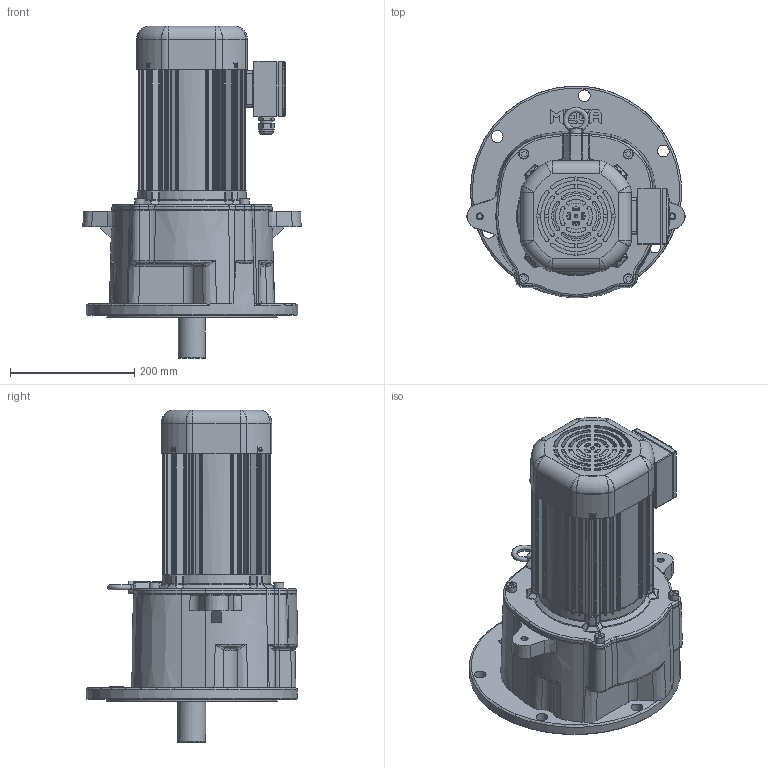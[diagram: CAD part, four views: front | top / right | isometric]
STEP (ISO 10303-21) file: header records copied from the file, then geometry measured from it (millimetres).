
FILE_DESCRIPTION(/* description */ (''),/* implementation_level */ '2;1');
FILE_NAME(/* name */ 'Z:\동력 3D 파일\PMK172_1.5kW_3D.stp',/* time_stamp */ '2021-11-18T16:55:20+09:00',/* author */ ('jaebok'),/* organization */ (''),/* preprocessor_version */ 'ST-DEVELOPER v18.1',/* originating_system */ 'Autodesk Inventor 2022',/* authorisation */ '');
FILE_SCHEMA (('AUTOMOTIVE_DESIGN { 1 0 10303 214 3 1 1 }'));
Products named in the file (1): 부품14
Bounding box: 351.17 x 341.06 x 534.5 mm (x, y, z)
Volume: 6865677.5 mm3; surface area: 1313522.2 mm2
Topology: 2 solids, 33 shells, 3126 faces, 7960 edges, 4848 vertices
Faces by surface type: plane 1038, bspline 807, cylinder 792, torus 235, cone 198, sphere 56
Full cylindrical faces by diameter (mm): 3.25 x1, 3.6 x4, 4 x21, 5 x17, 6 x9, 7 x12, 8 x4, 8.376 x6, 8.5 x1, 8.8 x1, 10 x7, 11 x4, 12.5 x1, 15 x1, 16 x4, 19 x6, 20 x2, 21 x1, 22 x1, 23.6 x1, 25 x2, 26 x1, 36 x2, 38 x1, 40 x1, 45 x1, 50 x1, 52 x6, 55 x1, 62 x4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
Entity records: 122064 total; most frequent: CARTESIAN_POINT 48226, ORIENTED_EDGE 15600, DIRECTION 13489, EDGE_CURVE 7800, AXIS2_PLACEMENT_3D 5364, VERTEX_POINT 4848, EDGE_LOOP 3358, FACE_OUTER_BOUND 3126
